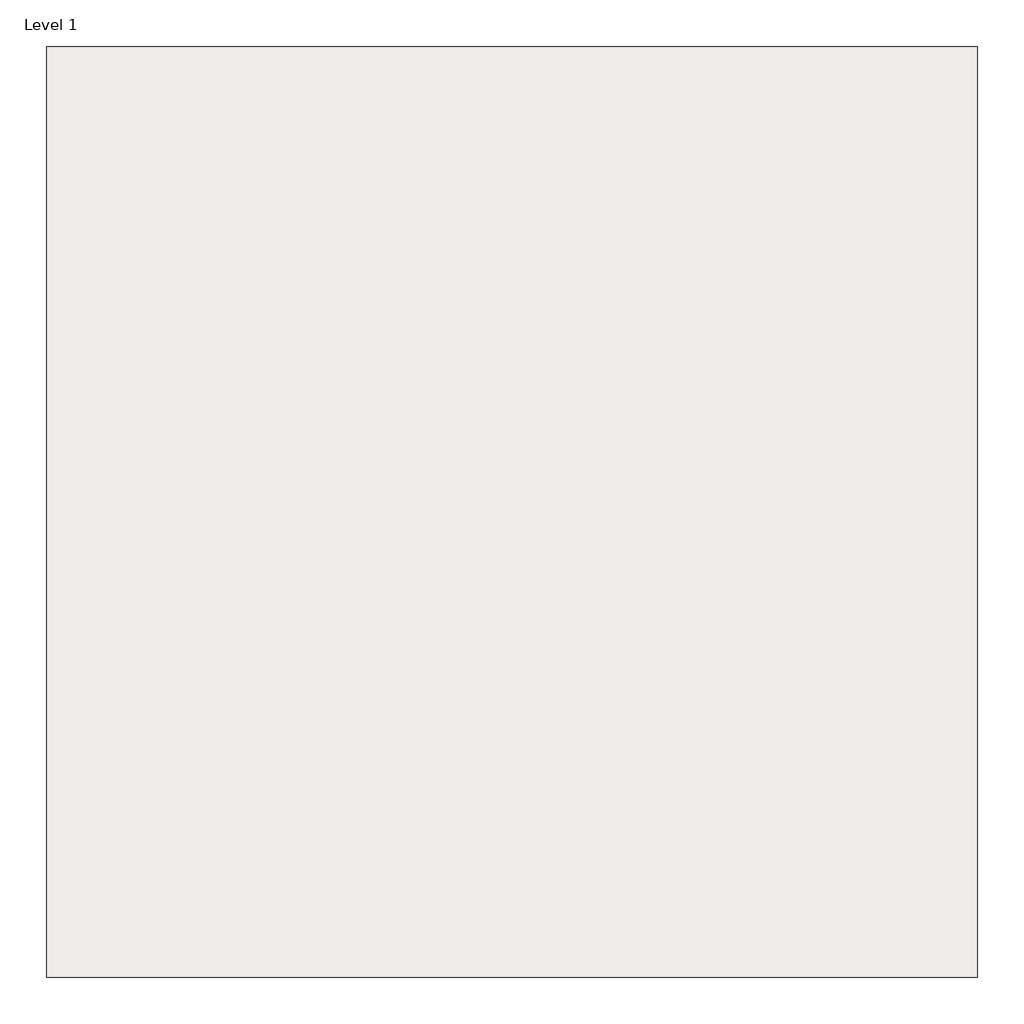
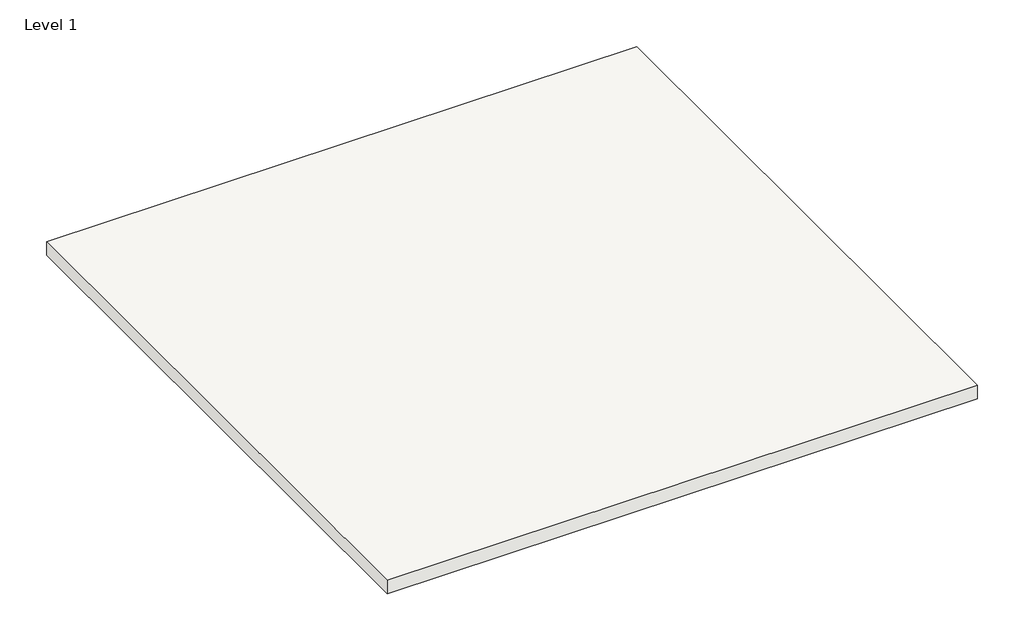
# One storey: 1 covering.
"""IFC4 building model written with IfcOpenShell, lengths in millimetres."""

from ifc_helpers import new_model, si_unit, origin, origin_with_axes, place, context, project, spatial, polyline, outline, extrude, element, save

model = new_model("IFC4")

# Units and contexts
model_context = context("Model", 3, world=origin())
ifc_project = project(units=[si_unit("LENGTHUNIT", "METRE", prefix="MILLI")], contexts=[model_context])

# Site, building, storey
site = spatial("IfcSite", under=ifc_project)
building = spatial("IfcBuilding", under=site)
storey = spatial("IfcBuildingStorey", under=building, Name="Level 1", Elevation=0.0)

# Covering
placement = place(None, origin())
element("IfcCovering", 1, ObjectType="RIGIPS - 4.10.13 - EI 15, REI 15 - 27dB", at=placement, inside=storey, context=model_context, shape_type="SweptSolid", body=[
    extrude(outline(polyline([(-1500.0, 1500.0), (1500.0, 1500.0), (1500.0, -1500.0), (-1500.0, -1500.0), (-1500.0, 1500.0)])), origin_with_axes(), (0.0, 0.0, 1.0), 72.5),
])

save(model, "model.ifc")
